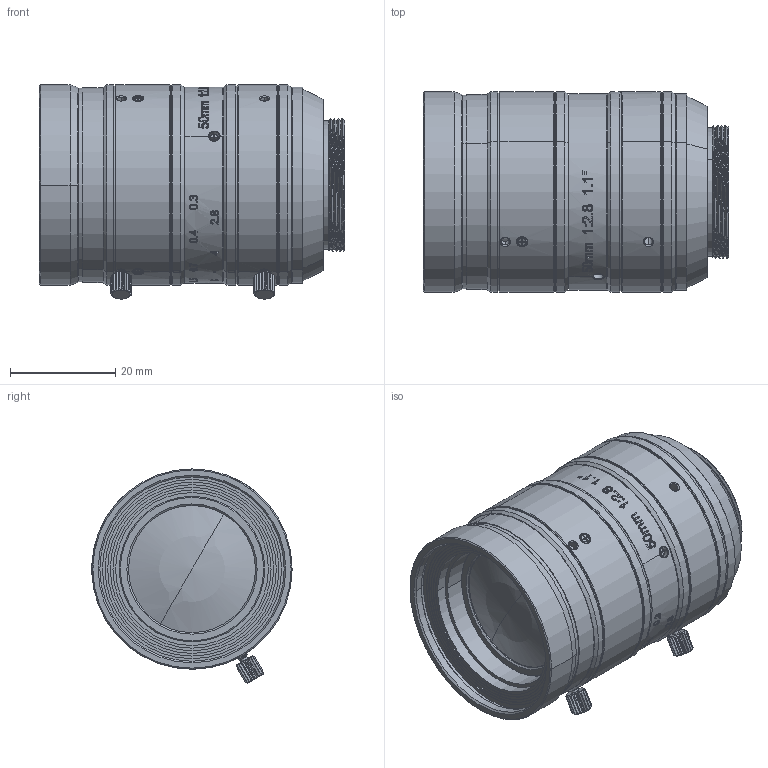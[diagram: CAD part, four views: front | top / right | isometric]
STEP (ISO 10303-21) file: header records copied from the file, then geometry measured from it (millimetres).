
FILE_DESCRIPTION((''),'2;1');
FILE_NAME('ASM0023_ASM','2020-11-26T11:51:12',('dihaoping'),(''),'CREO PARAMETRIC BY PTC INC, 2017260','CREO PARAMETRIC BY PTC INC, 2017260','');
FILE_SCHEMA(('CONFIG_CONTROL_DESIGN'));
Length unit declared in the file: millimetre
Products named in the file (23): PRT0068_1; PRT0069_1; PRT0070_1; PRT0071_1; PRT0072_1_2; PRT0073_1; PRT0074_1; PRT0075_1; PRT0076_1; PRT0077_1; PRT0078_1; PRT0079_1; PRT0080_1; PRT0081_1; PRT0082_1; PRT0083_1; PRT0084_1; PRT0085_1; PRT0086_1; PRT0087_1; ASM0007_ASM_1_ASM; ASM0006_ASM_1_ASM; ASM0023_ASM
Assembly tree (22 placements, depth 4):
  ASM0023_ASM
    ASM0006_ASM_1_ASM
      ASM0007_ASM_1_ASM
        PRT0068_1
        PRT0069_1
        PRT0070_1
        PRT0071_1
        PRT0072_1_2
        PRT0073_1
        PRT0074_1
        PRT0075_1
        PRT0076_1
        PRT0077_1
        PRT0078_1
        PRT0079_1
        PRT0080_1
        PRT0081_1
        PRT0082_1
        PRT0083_1
        PRT0084_1
        PRT0085_1
        PRT0086_1
        PRT0087_1
Bounding box: 57.88 x 38 x 40.63 mm (x, y, z)
Volume: 25603.9 mm3; surface area: 29201.8 mm2
Topology: 20 solids, 20 shells, 1585 faces, 4255 edges, 2798 vertices
Faces by surface type: bspline 491, plane 411, cylinder 378, cone 257, torus 32, sphere 8, extrusion 8
Entity records: 82811 total; most frequent: CARTESIAN_POINT 45629, ORIENTED_EDGE 8494, DIRECTION 6371, EDGE_CURVE 4247, VERTEX_POINT 2798, AXIS2_PLACEMENT_3D 2404, EDGE_LOOP 1737, FACE_OUTER_BOUND 1585
